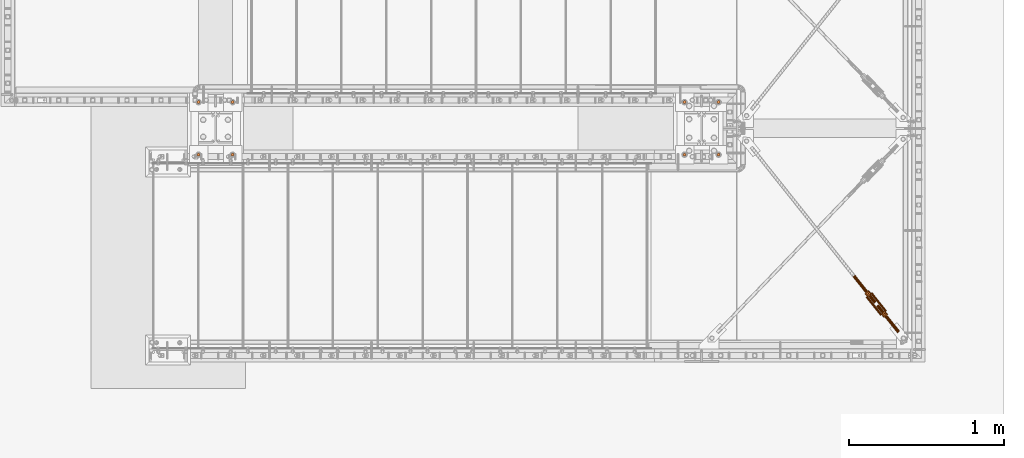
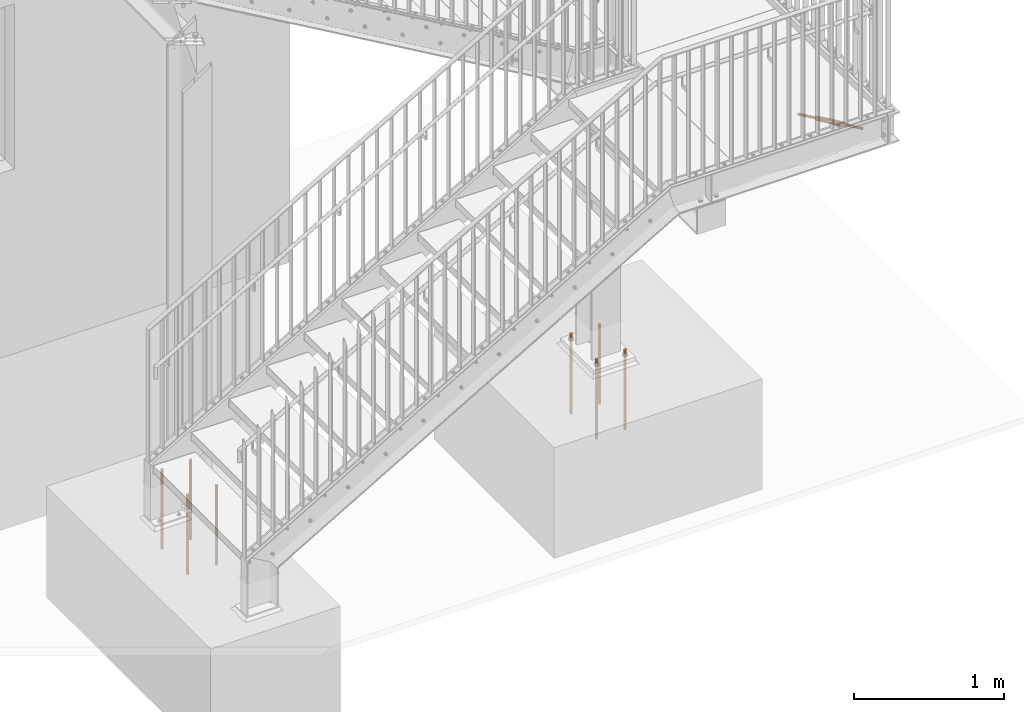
# One storey, part 132 of 145: 9 proxies.
"""IFC2X3 building model written with IfcOpenShell, lengths in millimetres."""

from ifc_helpers import new_model, entity, si_unit, converted_unit, origin_with_axes, place, context, project, spatial, faceted_brep, material, element, save


model = new_model("IFC2X3")

# Units and contexts
model_context = context("Model", 3, precision=1e-09, world=origin_with_axes())
ifc_project = project(units=[si_unit("LENGTHUNIT", "METRE", prefix="MILLI"), si_unit("AREAUNIT", "SQUARE_METRE"), si_unit("VOLUMEUNIT", "CUBIC_METRE"), converted_unit("PLANEANGLEUNIT", "DEGREE", entity("IfcPlaneAngleMeasure", 0.01745329), si_unit("PLANEANGLEUNIT", "RADIAN"), dimensions=[0, 0, 0, 0, 0, 0, 0])], contexts=[model_context])

# Site, building, storey
site_placement = place(None, origin_with_axes())
site = spatial("IfcSite", under=ifc_project, at=site_placement, Name="BZ1 Grund- und Mittelschule 85716 Unterschlei?heim", CompositionType="ELEMENT")
building_placement = place(site_placement, origin_with_axes())
building = spatial("IfcBuilding", under=site, at=building_placement, Name="Struktur 1", CompositionType="ELEMENT")
storey_placement = place(building_placement, origin_with_axes())
storey = spatial("IfcBuildingStorey", under=building, at=storey_placement, Name="Default Storey", CompositionType="ELEMENT", Elevation=0.0)

# Proxies
ifc_material_1 = material(Name="S235JR")
proxy_1_placement = place(None, origin_with_axes())
element("IfcBuildingElementProxy", 1, at=proxy_1_placement, inside=storey, material=ifc_material_1, ObjectType="-", context=model_context, shape_type="Brep", body=[
    faceted_brep([(21367.433780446, -2904.916448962, 1422.058250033), (21272.734727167, -2786.021161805, 1422.058250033), (21272.035913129, -2786.577761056, 1418.6363644), (21366.734966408, -2905.473048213, 1418.6363644), (21272.734727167, -2786.021161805, 1415.214478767), (21367.433780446, -2904.916448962, 1415.214478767), (21279.179769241, -2780.887742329, 1420.758397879), (21279.179769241, -2780.887742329, 1416.514330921), (21280.002062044, -2780.232793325, 1412.402521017), (21277.300520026, -2782.384547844, 1411.641555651), (21274.652794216, -2784.493438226, 1412.666043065), (21274.652794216, -2784.493438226, 1424.606685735), (21277.300520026, -2782.384547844, 1425.631173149), (21280.002062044, -2780.232793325, 1424.870207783), (21369.351847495, -2903.388725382, 1424.606685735), (21371.999573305, -2901.279835, 1411.641555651), (21369.351847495, -2903.388725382, 1412.666043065), (21284.11399462, -2785.395351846, 1412.402521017), (21370.589182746, -2893.96552196, 1412.402521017), (21374.701115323, -2899.128080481, 1412.402521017), (21373.87882252, -2899.783029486, 1416.514330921), (21373.87882252, -2899.783029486, 1420.758397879), (21374.701115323, -2899.128080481, 1424.870207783), (21371.999573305, -2901.279835, 1425.631173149), (21373.442289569, -2891.693047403, 1417.110737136), (21372.426947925, -2892.501758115, 1414.349356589), (21285.9517598, -2783.931588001, 1414.349356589), (21286.967101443, -2783.122877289, 1417.110737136), (21287.745013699, -2782.503277, 1405.824378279), (21293.336385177, -2778.049798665, 1402.119860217), (21299.634009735, -2773.033795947, 1402.119860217), (21305.225381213, -2768.580317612, 1405.824378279), (21308.856400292, -2765.688242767, 1412.402521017), (21307.018635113, -2767.152006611, 1414.349356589), (21306.00329347, -2767.960717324, 1417.110737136), (21306.00329347, -2767.960717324, 1420.161991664), (21307.018635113, -2767.152006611, 1422.923372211), (21308.856400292, -2765.688242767, 1424.870207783), (21305.225381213, -2768.580317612, 1431.448350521), (21299.634009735, -2773.033795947, 1435.152868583), (21293.336385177, -2778.049798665, 1435.152868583), (21287.745013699, -2782.503277, 1431.448350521), (21284.11399462, -2785.395351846, 1424.870207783), (21285.9517598, -2783.931588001, 1422.923372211), (21286.967101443, -2783.122877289, 1420.161991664), (21373.442289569, -2891.693047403, 1420.161991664), (21374.220201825, -2891.073447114, 1431.448350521), (21379.811573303, -2886.61996878, 1435.152868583), (21386.109197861, -2881.603966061, 1435.152868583), (21391.700569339, -2877.150487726, 1431.448350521), (21395.331588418, -2874.258412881, 1424.870207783), (21393.493823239, -2875.722176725, 1422.923372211), (21392.478481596, -2876.530887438, 1420.161991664), (21392.478481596, -2876.530887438, 1417.110737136), (21393.493823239, -2875.722176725, 1414.349356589), (21395.331588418, -2874.258412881, 1412.402521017), (21391.700569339, -2877.150487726, 1405.824378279), (21386.109197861, -2881.603966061, 1402.119860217), (21379.811573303, -2886.61996878, 1402.119860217), (21374.220201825, -2891.073447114, 1405.824378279), (21372.426947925, -2892.501758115, 1422.923372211), (21370.589182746, -2893.96552196, 1424.870207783), (21376.186284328, -2889.507479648, 1413.6363644), (21379.049356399, -2887.227067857, 1409.976110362), (21382.960385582, -2884.11196742, 1408.6363644), (21386.871414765, -2880.996866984, 1409.976110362), (21389.734486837, -2878.716455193, 1413.6363644), (21390.782443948, -2877.881766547, 1418.6363644), (21389.734486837, -2878.716455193, 1423.6363644), (21386.871414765, -2880.996866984, 1427.296618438), (21382.960385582, -2884.11196742, 1428.6363644), (21379.049356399, -2887.227067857, 1427.296618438), (21376.186284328, -2889.507479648, 1423.6363644), (21375.138327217, -2890.342168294, 1418.6363644), (21264.509684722, -2761.889875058, 1414.567998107), (21267.467461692, -2759.534031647, 1407.36327921), (21264.509684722, -2761.889875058, 1422.704730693), (21340.424931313, -2844.608864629, 1413.6363644), (21339.376974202, -2845.443553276, 1418.6363644), (21343.288003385, -2842.328452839, 1409.976110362), (21267.467461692, -2759.534031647, 1429.90944959), (21272.705424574, -2755.362040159, 1434.531640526), (21279.023619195, -2750.329653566, 1435.51241526), (21284.97462331, -2745.589730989, 1432.62709012), (21289.195133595, -2742.22813157, 1426.536658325), (21290.718282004, -2741.014957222, 1418.6363644), (21289.195133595, -2742.22813157, 1410.736070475), (21284.97462331, -2745.589730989, 1404.64563868), (21279.023619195, -2750.329653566, 1401.76031354), (21272.705424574, -2755.362040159, 1402.741088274), (21269.598724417, -2757.836499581, 1418.6363644), (21270.646681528, -2757.001810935, 1413.6363644), (21273.5097536, -2754.721399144, 1409.976110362), (21277.420782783, -2751.606298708, 1408.6363644), (21281.331811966, -2748.491198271, 1409.976110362), (21284.194884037, -2746.21078648, 1413.6363644), (21285.242841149, -2745.376097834, 1418.6363644), (21284.194884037, -2746.21078648, 1423.6363644), (21281.331811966, -2748.491198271, 1427.296618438), (21277.420782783, -2751.606298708, 1428.6363644), (21273.5097536, -2754.721399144, 1427.296618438), (21270.646681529, -2757.001810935, 1423.6363644), (21191.271102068, -2651.470228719, 1409.976110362), (21195.182131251, -2648.355128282, 1408.6363644), (21188.408029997, -2653.750640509, 1413.6363644), (21328.335521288, -2823.555512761, 1409.976110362), (21292.574168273, -2778.656897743, 1409.976110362), (21296.485197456, -2775.541797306, 1408.6363644), (21332.246550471, -2820.440412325, 1408.6363644), (21347.199032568, -2839.213352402, 1408.6363644), (21392.071479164, -2915.975198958, 1407.36327921), (21389.113702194, -2918.33104237, 1414.567998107), (21389.113702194, -2918.33104237, 1422.704730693), (21351.11006175, -2836.098251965, 1427.296618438), (21353.973133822, -2833.817840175, 1423.6363644), (21355.021090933, -2832.983151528, 1418.6363644), (21353.973133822, -2833.817840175, 1413.6363644), (21351.11006175, -2836.098251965, 1409.976110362), (21340.424931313, -2844.608864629, 1423.6363644), (21343.288003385, -2842.328452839, 1427.296618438), (21347.199032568, -2839.213352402, 1428.6363644), (21199.093160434, -2645.240027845, 1427.296618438), (21201.956232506, -2642.959616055, 1423.6363644), (21203.004189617, -2642.124927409, 1418.6363644), (21201.956232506, -2642.959616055, 1413.6363644), (21199.093160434, -2645.240027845, 1409.976110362), (21187.360072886, -2654.585329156, 1418.6363644), (21188.408029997, -2653.750640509, 1423.6363644), (21191.271102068, -2651.470228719, 1427.296618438), (21195.182131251, -2648.355128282, 1428.6363644), (21328.335521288, -2823.555512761, 1427.296618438), (21325.472449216, -2825.835924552, 1423.6363644), (21324.424492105, -2826.670613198, 1418.6363644), (21325.472449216, -2825.835924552, 1413.6363644), (21336.157579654, -2817.325311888, 1409.976110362), (21339.020651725, -2815.044900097, 1413.6363644), (21340.068608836, -2814.210211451, 1418.6363644), (21339.020651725, -2815.044900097, 1423.6363644), (21336.157579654, -2817.325311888, 1427.296618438), (21332.246550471, -2820.440412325, 1428.6363644), (21289.711096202, -2780.937309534, 1413.6363644), (21288.663139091, -2781.77199818, 1418.6363644), (21289.711096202, -2780.937309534, 1423.6363644), (21292.574168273, -2778.656897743, 1427.296618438), (21397.309442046, -2911.80320747, 1402.741088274), (21300.396226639, -2772.426696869, 1409.976110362), (21296.485197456, -2775.541797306, 1428.6363644), (21303.259298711, -2770.146285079, 1413.6363644), (21392.071479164, -2915.975198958, 1429.90944959), (21403.627636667, -2906.770820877, 1401.76031354), (21409.578640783, -2902.030898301, 1404.64563868), (21413.799151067, -2898.669298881, 1410.736070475), (21415.322299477, -2897.456124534, 1418.6363644), (21413.799151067, -2898.669298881, 1426.536658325), (21409.578640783, -2902.030898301, 1432.62709012), (21403.627636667, -2906.770820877, 1435.51241526), (21397.309442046, -2911.80320747, 1434.531640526), (21402.024800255, -2908.047466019, 1408.6363644), (21398.113771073, -2911.162566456, 1409.976110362), (21395.250699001, -2913.442978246, 1413.6363644), (21394.20274189, -2914.277666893, 1418.6363644), (21395.250699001, -2913.442978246, 1423.6363644), (21398.113771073, -2911.162566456, 1427.296618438), (21402.024800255, -2908.047466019, 1428.6363644), (21405.935829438, -2904.932365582, 1427.296618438), (21408.79890151, -2902.651953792, 1423.6363644), (21409.846858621, -2901.817265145, 1418.6363644), (21408.79890151, -2902.651953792, 1413.6363644), (21405.935829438, -2904.932365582, 1409.976110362), (21480.352422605, -3014.413736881, 1427.296618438), (21484.263451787, -3011.298636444, 1428.6363644), (21477.489350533, -3016.694148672, 1423.6363644), (21304.307255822, -2769.311596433, 1418.6363644), (21488.17448097, -3008.183536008, 1409.976110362), (21491.037553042, -3005.903124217, 1413.6363644), (21492.085510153, -3005.068435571, 1418.6363644), (21491.037553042, -3005.903124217, 1423.6363644), (21488.17448097, -3008.183536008, 1427.296618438), (21476.441393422, -3017.528837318, 1418.6363644), (21477.489350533, -3016.694148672, 1413.6363644), (21480.352422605, -3014.413736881, 1409.976110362), (21484.263451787, -3011.298636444, 1408.6363644), (21300.396226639, -2772.426696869, 1427.296618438), (21303.259298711, -2770.146285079, 1423.6363644), (21304.744467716, -2760.525684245, 1412.402521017), (21307.446009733, -2758.373929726, 1411.641555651), (21402.145063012, -2877.269216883, 1411.641555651), (21399.443520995, -2879.420971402, 1412.402521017), (21305.566760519, -2759.870735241, 1416.514330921), (21307.446009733, -2758.373929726, 1425.631173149), (21310.093735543, -2756.265039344, 1424.606685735), (21312.011802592, -2754.737315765, 1422.058250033), (21312.71061663, -2754.180716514, 1418.6363644), (21312.011802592, -2754.737315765, 1415.214478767), (21310.093735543, -2756.265039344, 1412.666043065), (21305.566760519, -2759.870735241, 1420.758397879), (21304.744467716, -2760.525684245, 1424.870207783), (21400.265813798, -2878.766022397, 1416.514330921), (21404.792788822, -2875.160326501, 1412.666043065), (21400.265813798, -2878.766022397, 1420.758397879), (21406.710855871, -2873.632602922, 1415.214478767), (21407.409669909, -2873.07600367, 1418.6363644), (21406.710855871, -2873.632602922, 1422.058250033), (21404.792788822, -2875.160326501, 1424.606685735), (21402.145063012, -2877.269216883, 1425.631173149), (21399.443520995, -2879.420971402, 1424.870207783)], [[[0, 1, 2, 3]], [[3, 2, 4, 5]], [[6, 7, 8, 9, 10, 4, 2, 1, 11, 12, 13]], [[11, 1, 0, 14]], [[10, 9, 15, 16]], [[4, 10, 16, 5]], [[15, 9, 8, 17, 18, 19]], [[20, 21, 22, 23, 14, 0, 3, 5, 16, 15, 19]], [[24, 25, 26, 27]], [[17, 26, 25, 18]], [[28, 17, 8]], [[28, 29, 30, 31, 32, 33, 34, 35, 36, 37, 38, 39, 40, 41, 42, 43, 44, 27, 26, 17]], [[12, 11, 14, 23]], [[45, 24, 27, 44]], [[46, 47, 48, 49, 50, 51, 52, 53, 54, 55, 56, 57, 58, 59, 18, 25, 24, 45, 60, 61], [62, 63, 64, 65, 66, 67, 68, 69, 70, 71, 72, 73]], [[7, 74, 8]], [[74, 75, 8]], [[8, 75, 28]], [[7, 6, 76, 74]], [[12, 23, 22, 61, 42, 13]], [[43, 42, 61, 60]], [[44, 43, 60, 45]], [[77, 62, 73, 78]], [[79, 63, 62, 77]], [[76, 80, 81, 82, 83, 84, 85, 86, 87, 88, 89, 75, 74], [90, 91, 92, 93, 94, 95, 96, 97, 98, 99, 100, 101]], [[75, 89, 28]], [[92, 102, 103, 93]], [[102, 92, 91, 104]], [[13, 76, 6]], [[105, 106, 107, 108]], [[63, 79, 109, 64]], [[18, 59, 110]], [[19, 18, 110]], [[20, 19, 111]], [[21, 20, 111, 112]], [[113, 114, 115, 116, 117, 109, 79, 77, 78, 118, 119, 120]], [[28, 89, 29]], [[121, 122, 123, 124, 125, 103, 102, 104, 126, 127, 128, 129]], [[13, 42, 41]], [[80, 76, 13]], [[130, 131, 132, 133, 105, 108, 134, 135, 136, 137, 138, 139]], [[133, 140, 106, 105]], [[132, 141, 140, 133]], [[131, 142, 141, 132]], [[130, 143, 142, 131]], [[22, 21, 112]], [[78, 73, 72, 118]], [[110, 59, 144]], [[111, 19, 110]], [[104, 91, 90, 126]], [[108, 107, 145, 134]], [[89, 88, 29]], [[93, 103, 125, 94]], [[143, 130, 139, 146]], [[41, 80, 13]], [[147, 135, 134, 145]], [[148, 22, 112]], [[46, 61, 22]], [[118, 72, 71, 119]], [[64, 109, 117, 65]], [[59, 58, 144]], [[149, 150, 151, 152, 153, 154, 155, 156, 148, 112, 111, 110, 144], [157, 158, 159, 160, 161, 162, 163, 164, 165, 166, 167, 168]], [[162, 169, 170, 163]], [[169, 162, 161, 171]], [[65, 117, 116, 66]], [[128, 100, 99, 129]], [[127, 101, 100, 128]], [[126, 90, 101, 127]], [[29, 88, 30]], [[81, 80, 41]], [[135, 147, 172, 136]], [[46, 22, 148]], [[66, 116, 115, 67]], [[144, 58, 149]], [[173, 174, 175, 176, 177, 170, 169, 171, 178, 179, 180, 181]], [[88, 87, 30]], [[94, 125, 124, 95]], [[146, 139, 138, 182]], [[40, 81, 41]], [[129, 99, 98, 121]], [[156, 46, 148]], [[119, 71, 70, 120]], [[58, 57, 149]], [[181, 157, 168, 173]], [[157, 181, 180, 158]], [[179, 159, 158, 180]], [[178, 160, 159, 179]], [[171, 161, 160, 178]], [[163, 170, 177, 164]], [[30, 87, 31]], [[82, 81, 40]], [[34, 33, 54, 53]], [[183, 137, 136, 172]], [[182, 138, 137, 183]], [[47, 46, 156]], [[67, 115, 114, 68]], [[149, 57, 150]], [[95, 124, 123, 96]], [[86, 31, 87]], [[39, 82, 40]], [[121, 98, 97, 122]], [[32, 31, 86]], [[55, 54, 33, 32]], [[35, 34, 53, 52]], [[155, 47, 156]], [[120, 70, 69, 113]], [[68, 114, 113, 69]], [[57, 56, 150]], [[173, 168, 167, 174]], [[164, 177, 176, 165]], [[96, 123, 122, 97]], [[83, 82, 39]], [[184, 32, 86]], [[48, 47, 155]], [[150, 56, 151]], [[56, 55, 151]], [[38, 83, 39]], [[55, 32, 184, 185, 186, 187]], [[86, 188, 184]], [[36, 35, 52, 51]], [[154, 48, 155]], [[174, 167, 166, 175]], [[165, 176, 175, 166]], [[55, 187, 151]], [[84, 83, 38]], [[85, 188, 86]], [[189, 190, 191, 192, 193, 194, 185, 184, 188, 195, 196]], [[49, 48, 154]], [[151, 187, 197]], [[37, 84, 38]], [[195, 188, 85]], [[198, 186, 185, 194]], [[199, 197, 187, 186, 198, 200, 201, 202, 203, 204, 205]], [[37, 36, 51, 50]], [[153, 49, 154]], [[151, 197, 152]], [[84, 195, 85]], [[37, 196, 84]], [[50, 49, 153]], [[197, 199, 152]], [[196, 195, 84]], [[204, 189, 196, 37, 50, 205]], [[194, 193, 200, 198]], [[205, 50, 153]], [[152, 199, 153]], [[200, 193, 192, 201]], [[153, 199, 205]], [[190, 189, 204, 203]], [[201, 192, 191, 202]], [[191, 190, 203, 202]]]),
])
ifc_material_2 = material(Name="A2")
proxy_2_placement = place(None, origin_with_axes())
element("IfcBuildingElementProxy", 2, at=proxy_2_placement, inside=storey, material=ifc_material_2, ObjectType="-", context=model_context, shape_type="Brep", body=[
    faceted_brep([(20100.844727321, -1515.002, -1310.0), (20100.844727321, -1515.002, -660.0), (20105.844727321, -1516.341745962, -660.0), (20105.844727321, -1516.341745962, -1310.0), (20095.844727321, -1516.341745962, -1310.0), (20095.844727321, -1516.341745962, -660.0), (20092.184473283, -1530.002, -660.0), (20095.844727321, -1533.662254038, -660.0), (20100.844727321, -1535.002, -660.0), (20105.844727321, -1533.662254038, -660.0), (20109.504981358, -1530.002, -660.0), (20110.844727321, -1525.002, -660.0), (20109.504981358, -1520.002, -660.0), (20092.184473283, -1520.002, -660.0), (20090.844727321, -1525.002, -660.0), (20109.504981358, -1530.002, -1310.0), (20105.844727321, -1533.662254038, -1310.0), (20100.844727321, -1535.002, -1310.0), (20095.844727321, -1533.662254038, -1310.0), (20092.184473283, -1530.002, -1310.0), (20090.844727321, -1525.002, -1310.0), (20092.184473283, -1520.002, -1310.0), (20109.504981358, -1520.002, -1310.0), (20110.844727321, -1525.002, -1310.0)], [[[0, 1, 2, 3]], [[1, 0, 4, 5]], [[6, 7, 8, 9, 10, 11, 12, 2, 1, 5, 13, 14]], [[15, 16, 17, 18, 19, 20, 21, 4, 0, 3, 22, 23]], [[3, 2, 12, 22]], [[5, 4, 21, 13]], [[11, 23, 22, 12]], [[10, 15, 23, 11]], [[13, 21, 20, 14]], [[16, 9, 8, 17]], [[15, 10, 9, 16]], [[17, 8, 7, 18]], [[14, 20, 19, 6]], [[18, 7, 6, 19]]]),
])
proxy_3_placement = place(None, origin_with_axes())
element("IfcBuildingElementProxy", 3, at=proxy_3_placement, inside=storey, material=ifc_material_2, ObjectType="-", context=model_context, shape_type="Brep", body=[
    faceted_brep([(20320.844727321, -1515.002, -1310.0), (20320.844727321, -1515.002, -660.0), (20325.844727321, -1516.341745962, -660.0), (20325.844727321, -1516.341745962, -1310.0), (20315.844727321, -1516.341745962, -1310.0), (20315.844727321, -1516.341745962, -660.0), (20312.184473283, -1530.002, -660.0), (20315.844727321, -1533.662254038, -660.0), (20320.844727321, -1535.002, -660.0), (20325.844727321, -1533.662254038, -660.0), (20329.504981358, -1530.002, -660.0), (20330.844727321, -1525.002, -660.0), (20329.504981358, -1520.002, -660.0), (20312.184473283, -1520.002, -660.0), (20310.844727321, -1525.002, -660.0), (20329.504981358, -1530.002, -1310.0), (20325.844727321, -1533.662254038, -1310.0), (20320.844727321, -1535.002, -1310.0), (20315.844727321, -1533.662254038, -1310.0), (20312.184473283, -1530.002, -1310.0), (20310.844727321, -1525.002, -1310.0), (20312.184473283, -1520.002, -1310.0), (20329.504981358, -1520.002, -1310.0), (20330.844727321, -1525.002, -1310.0)], [[[0, 1, 2, 3]], [[1, 0, 4, 5]], [[6, 7, 8, 9, 10, 11, 12, 2, 1, 5, 13, 14]], [[15, 16, 17, 18, 19, 20, 21, 4, 0, 3, 22, 23]], [[3, 2, 12, 22]], [[5, 4, 21, 13]], [[11, 23, 22, 12]], [[10, 15, 23, 11]], [[13, 21, 20, 14]], [[16, 9, 8, 17]], [[15, 10, 9, 16]], [[17, 8, 7, 18]], [[14, 20, 19, 6]], [[18, 7, 6, 19]]]),
])
proxy_4_placement = place(None, origin_with_axes())
element("IfcBuildingElementProxy", 4, at=proxy_4_placement, inside=storey, material=ifc_material_2, ObjectType="-", context=model_context, shape_type="Brep", body=[
    faceted_brep([(20100.844727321, -1855.002, -1310.0), (20100.844727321, -1855.002, -660.0), (20105.844727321, -1856.341745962, -660.0), (20105.844727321, -1856.341745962, -1310.0), (20095.844727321, -1856.341745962, -1310.0), (20095.844727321, -1856.341745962, -660.0), (20092.184473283, -1870.002, -660.0), (20095.844727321, -1873.662254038, -660.0), (20100.844727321, -1875.002, -660.0), (20105.844727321, -1873.662254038, -660.0), (20109.504981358, -1870.002, -660.0), (20110.844727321, -1865.002, -660.0), (20109.504981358, -1860.002, -660.0), (20092.184473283, -1860.002, -660.0), (20090.844727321, -1865.002, -660.0), (20109.504981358, -1870.002, -1310.0), (20105.844727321, -1873.662254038, -1310.0), (20100.844727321, -1875.002, -1310.0), (20095.844727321, -1873.662254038, -1310.0), (20092.184473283, -1870.002, -1310.0), (20090.844727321, -1865.002, -1310.0), (20092.184473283, -1860.002, -1310.0), (20109.504981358, -1860.002, -1310.0), (20110.844727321, -1865.002, -1310.0)], [[[0, 1, 2, 3]], [[1, 0, 4, 5]], [[6, 7, 8, 9, 10, 11, 12, 2, 1, 5, 13, 14]], [[15, 16, 17, 18, 19, 20, 21, 4, 0, 3, 22, 23]], [[3, 2, 12, 22]], [[5, 4, 21, 13]], [[11, 23, 22, 12]], [[10, 15, 23, 11]], [[13, 21, 20, 14]], [[16, 9, 8, 17]], [[15, 10, 9, 16]], [[17, 8, 7, 18]], [[14, 20, 19, 6]], [[18, 7, 6, 19]]]),
])
proxy_5_placement = place(None, origin_with_axes())
element("IfcBuildingElementProxy", 5, at=proxy_5_placement, inside=storey, material=ifc_material_2, ObjectType="-", context=model_context, shape_type="Brep", body=[
    faceted_brep([(20320.844727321, -1855.002, -1310.0), (20320.844727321, -1855.002, -660.0), (20325.844727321, -1856.341745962, -660.0), (20325.844727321, -1856.341745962, -1310.0), (20315.844727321, -1856.341745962, -1310.0), (20315.844727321, -1856.341745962, -660.0), (20312.184473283, -1870.002, -660.0), (20315.844727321, -1873.662254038, -660.0), (20320.844727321, -1875.002, -660.0), (20325.844727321, -1873.662254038, -660.0), (20329.504981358, -1870.002, -660.0), (20330.844727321, -1865.002, -660.0), (20329.504981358, -1860.002, -660.0), (20312.184473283, -1860.002, -660.0), (20310.844727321, -1865.002, -660.0), (20329.504981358, -1870.002, -1310.0), (20325.844727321, -1873.662254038, -1310.0), (20320.844727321, -1875.002, -1310.0), (20315.844727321, -1873.662254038, -1310.0), (20312.184473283, -1870.002, -1310.0), (20310.844727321, -1865.002, -1310.0), (20312.184473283, -1860.002, -1310.0), (20329.504981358, -1860.002, -1310.0), (20330.844727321, -1865.002, -1310.0)], [[[0, 1, 2, 3]], [[1, 0, 4, 5]], [[6, 7, 8, 9, 10, 11, 12, 2, 1, 5, 13, 14]], [[15, 16, 17, 18, 19, 20, 21, 4, 0, 3, 22, 23]], [[3, 2, 12, 22]], [[5, 4, 21, 13]], [[11, 23, 22, 12]], [[10, 15, 23, 11]], [[13, 21, 20, 14]], [[16, 9, 8, 17]], [[15, 10, 9, 16]], [[17, 8, 7, 18]], [[14, 20, 19, 6]], [[18, 7, 6, 19]]]),
])
proxy_6_placement = place(None, origin_with_axes())
element("IfcBuildingElementProxy", 6, at=proxy_6_placement, inside=storey, material=ifc_material_2, ObjectType="-", context=model_context, shape_type="Brep", body=[
    faceted_brep([(16960.844727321, -1515.002, -1310.0), (16960.844727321, -1515.002, -660.0), (16965.844727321, -1516.341745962, -660.0), (16965.844727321, -1516.341745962, -1310.0), (16955.844727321, -1516.341745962, -1310.0), (16955.844727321, -1516.341745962, -660.0), (16952.184473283, -1530.002, -660.0), (16955.844727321, -1533.662254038, -660.0), (16960.844727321, -1535.002, -660.0), (16965.844727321, -1533.662254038, -660.0), (16969.504981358, -1530.002, -660.0), (16970.844727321, -1525.002, -660.0), (16969.504981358, -1520.002, -660.0), (16952.184473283, -1520.002, -660.0), (16950.844727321, -1525.002, -660.0), (16969.504981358, -1530.002, -1310.0), (16965.844727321, -1533.662254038, -1310.0), (16960.844727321, -1535.002, -1310.0), (16955.844727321, -1533.662254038, -1310.0), (16952.184473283, -1530.002, -1310.0), (16950.844727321, -1525.002, -1310.0), (16952.184473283, -1520.002, -1310.0), (16969.504981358, -1520.002, -1310.0), (16970.844727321, -1525.002, -1310.0)], [[[0, 1, 2, 3]], [[1, 0, 4, 5]], [[6, 7, 8, 9, 10, 11, 12, 2, 1, 5, 13, 14]], [[15, 16, 17, 18, 19, 20, 21, 4, 0, 3, 22, 23]], [[3, 2, 12, 22]], [[5, 4, 21, 13]], [[11, 23, 22, 12]], [[10, 15, 23, 11]], [[13, 21, 20, 14]], [[16, 9, 8, 17]], [[15, 10, 9, 16]], [[17, 8, 7, 18]], [[14, 20, 19, 6]], [[18, 7, 6, 19]]]),
])
proxy_7_placement = place(None, origin_with_axes())
element("IfcBuildingElementProxy", 7, at=proxy_7_placement, inside=storey, material=ifc_material_2, ObjectType="-", context=model_context, shape_type="Brep", body=[
    faceted_brep([(17180.844727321, -1515.002, -1310.0), (17180.844727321, -1515.002, -660.0), (17185.844727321, -1516.341745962, -660.0), (17185.844727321, -1516.341745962, -1310.0), (17175.844727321, -1516.341745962, -1310.0), (17175.844727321, -1516.341745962, -660.0), (17172.184473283, -1530.002, -660.0), (17175.844727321, -1533.662254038, -660.0), (17180.844727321, -1535.002, -660.0), (17185.844727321, -1533.662254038, -660.0), (17189.504981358, -1530.002, -660.0), (17190.844727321, -1525.002, -660.0), (17189.504981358, -1520.002, -660.0), (17172.184473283, -1520.002, -660.0), (17170.844727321, -1525.002, -660.0), (17189.504981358, -1530.002, -1310.0), (17185.844727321, -1533.662254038, -1310.0), (17180.844727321, -1535.002, -1310.0), (17175.844727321, -1533.662254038, -1310.0), (17172.184473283, -1530.002, -1310.0), (17170.844727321, -1525.002, -1310.0), (17172.184473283, -1520.002, -1310.0), (17189.504981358, -1520.002, -1310.0), (17190.844727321, -1525.002, -1310.0)], [[[0, 1, 2, 3]], [[1, 0, 4, 5]], [[6, 7, 8, 9, 10, 11, 12, 2, 1, 5, 13, 14]], [[15, 16, 17, 18, 19, 20, 21, 4, 0, 3, 22, 23]], [[3, 2, 12, 22]], [[5, 4, 21, 13]], [[11, 23, 22, 12]], [[10, 15, 23, 11]], [[13, 21, 20, 14]], [[16, 9, 8, 17]], [[15, 10, 9, 16]], [[17, 8, 7, 18]], [[14, 20, 19, 6]], [[18, 7, 6, 19]]]),
])
proxy_8_placement = place(None, origin_with_axes())
element("IfcBuildingElementProxy", 8, at=proxy_8_placement, inside=storey, material=ifc_material_2, ObjectType="-", context=model_context, shape_type="Brep", body=[
    faceted_brep([(16960.844727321, -1855.002, -1310.0), (16960.844727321, -1855.002, -660.0), (16965.844727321, -1856.341745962, -660.0), (16965.844727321, -1856.341745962, -1310.0), (16955.844727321, -1856.341745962, -1310.0), (16955.844727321, -1856.341745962, -660.0), (16952.184473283, -1870.002, -660.0), (16955.844727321, -1873.662254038, -660.0), (16960.844727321, -1875.002, -660.0), (16965.844727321, -1873.662254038, -660.0), (16969.504981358, -1870.002, -660.0), (16970.844727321, -1865.002, -660.0), (16969.504981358, -1860.002, -660.0), (16952.184473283, -1860.002, -660.0), (16950.844727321, -1865.002, -660.0), (16969.504981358, -1870.002, -1310.0), (16965.844727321, -1873.662254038, -1310.0), (16960.844727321, -1875.002, -1310.0), (16955.844727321, -1873.662254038, -1310.0), (16952.184473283, -1870.002, -1310.0), (16950.844727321, -1865.002, -1310.0), (16952.184473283, -1860.002, -1310.0), (16969.504981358, -1860.002, -1310.0), (16970.844727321, -1865.002, -1310.0)], [[[0, 1, 2, 3]], [[1, 0, 4, 5]], [[6, 7, 8, 9, 10, 11, 12, 2, 1, 5, 13, 14]], [[15, 16, 17, 18, 19, 20, 21, 4, 0, 3, 22, 23]], [[3, 2, 12, 22]], [[5, 4, 21, 13]], [[11, 23, 22, 12]], [[10, 15, 23, 11]], [[13, 21, 20, 14]], [[16, 9, 8, 17]], [[15, 10, 9, 16]], [[17, 8, 7, 18]], [[14, 20, 19, 6]], [[18, 7, 6, 19]]]),
])
proxy_9_placement = place(None, origin_with_axes())
element("IfcBuildingElementProxy", 9, at=proxy_9_placement, inside=storey, material=ifc_material_2, ObjectType="-", context=model_context, shape_type="Brep", body=[
    faceted_brep([(17180.844727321, -1855.002, -1310.0), (17180.844727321, -1855.002, -660.0), (17185.844727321, -1856.341745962, -660.0), (17185.844727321, -1856.341745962, -1310.0), (17175.844727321, -1856.341745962, -1310.0), (17175.844727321, -1856.341745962, -660.0), (17172.184473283, -1870.002, -660.0), (17175.844727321, -1873.662254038, -660.0), (17180.844727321, -1875.002, -660.0), (17185.844727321, -1873.662254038, -660.0), (17189.504981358, -1870.002, -660.0), (17190.844727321, -1865.002, -660.0), (17189.504981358, -1860.002, -660.0), (17172.184473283, -1860.002, -660.0), (17170.844727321, -1865.002, -660.0), (17189.504981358, -1870.002, -1310.0), (17185.844727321, -1873.662254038, -1310.0), (17180.844727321, -1875.002, -1310.0), (17175.844727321, -1873.662254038, -1310.0), (17172.184473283, -1870.002, -1310.0), (17170.844727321, -1865.002, -1310.0), (17172.184473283, -1860.002, -1310.0), (17189.504981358, -1860.002, -1310.0), (17190.844727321, -1865.002, -1310.0)], [[[0, 1, 2, 3]], [[1, 0, 4, 5]], [[6, 7, 8, 9, 10, 11, 12, 2, 1, 5, 13, 14]], [[15, 16, 17, 18, 19, 20, 21, 4, 0, 3, 22, 23]], [[3, 2, 12, 22]], [[5, 4, 21, 13]], [[11, 23, 22, 12]], [[10, 15, 23, 11]], [[13, 21, 20, 14]], [[16, 9, 8, 17]], [[15, 10, 9, 16]], [[17, 8, 7, 18]], [[14, 20, 19, 6]], [[18, 7, 6, 19]]]),
])

save(model, "model.ifc")
